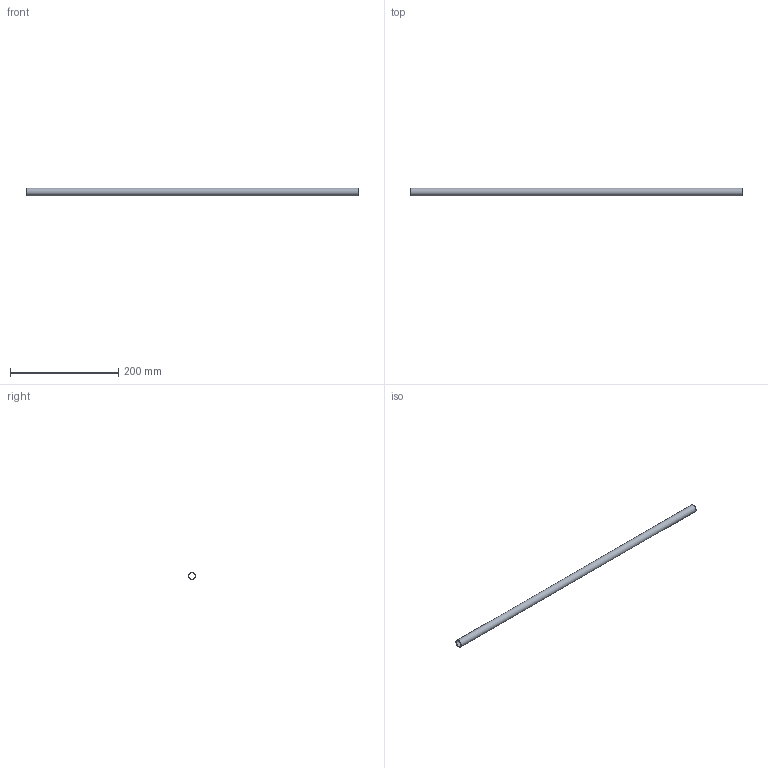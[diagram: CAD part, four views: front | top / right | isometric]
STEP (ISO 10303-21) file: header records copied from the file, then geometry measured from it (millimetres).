
FILE_DESCRIPTION(/* description */ (''),/* implementation_level */ '2;1');
FILE_NAME(/* name */ 'Boom v7.step',/* time_stamp */ '2023-09-02T21:56:16+03:00',/* author */ (''),/* organization */ (''),/* preprocessor_version */ 'ST-DEVELOPER v20',/* originating_system */ 'Autodesk Translation Framework v12.9.0.99',/* authorisation */ '');
FILE_SCHEMA (('AUTOMOTIVE_DESIGN { 1 0 10303 214 3 1 1 }'));
Length unit declared in the file: millimetre
Products named in the file (1): Boom
Bounding box: 613 x 14 x 14 mm (x, y, z)
Volume: 25035.4 mm3; surface area: 50152.4 mm2
Topology: 1 solids, 1 shells, 4 faces, 6 edges, 4 vertices
Faces by surface type: cylinder 2, plane 2
Full cylindrical faces by diameter (mm): 12 x1, 14 x1
Entity records: 138 total; most frequent: DIRECTION 20, CARTESIAN_POINT 15, ORIENTED_EDGE 12, AXIS2_PLACEMENT_3D 9, EDGE_LOOP 6, EDGE_CURVE 6, FACE_OUTER_BOUND 4, CIRCLE 4
